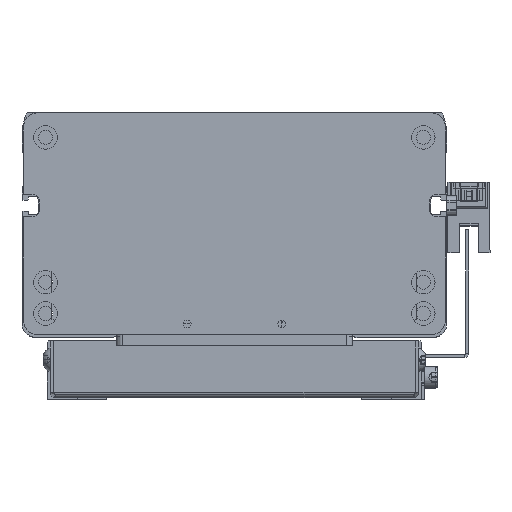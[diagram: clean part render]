
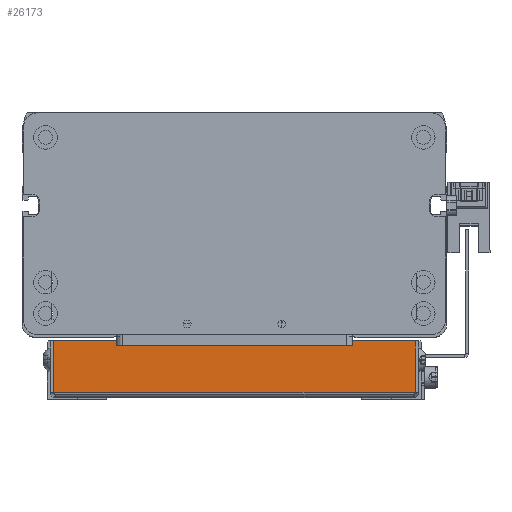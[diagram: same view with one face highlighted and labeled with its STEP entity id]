
A CAD part, front view. The second image highlights one B-rep face of the part: STEP entity #26173.
In plain terms, the highlighted planar face has unit normal (0, -1, 0) as drawn and (0, 0, -1) by its records, which use the part's own axes.
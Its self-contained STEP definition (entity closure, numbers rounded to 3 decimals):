
#411 = DIRECTION ( 'NONE',  ( 0., -1., 0. ) ) ;
#2259 = EDGE_CURVE ( 'NONE', #14990, #5510, #4133, .T. ) ;
#2807 = ORIENTED_EDGE ( 'NONE', *, *, #6139, .F. ) ;
#3041 = VERTEX_POINT ( 'NONE', #14095 ) ;
#4133 = LINE ( 'NONE', #14811, #17696 ) ;
#5510 = VERTEX_POINT ( 'NONE', #17784 ) ;
#6139 = EDGE_CURVE ( 'NONE', #3041, #14990, #7745, .T. ) ;
#7745 = LINE ( 'NONE', #13411, #26751 ) ;
#7921 = ORIENTED_EDGE ( 'NONE', *, *, #2259, .F. ) ;
#11475 = DIRECTION ( 'NONE',  ( 0., 0., 1. ) ) ;
#11747 = CARTESIAN_POINT ( 'NONE',  ( -53.796, 56.624, 628.624 ) ) ;
#12245 = DIRECTION ( 'NONE',  ( 1., 0., 0. ) ) ;
#13179 = EDGE_LOOP ( 'NONE', ( #2807, #22040, #28611, #7921 ) ) ;
#13411 = CARTESIAN_POINT ( 'NONE',  ( 139.113, 56.624, 628.624 ) ) ;
#13671 = VECTOR ( 'NONE', #15596, 1000. ) ;
#14095 = CARTESIAN_POINT ( 'NONE',  ( 61.004, 56.624, 628.624 ) ) ;
#14155 = VECTOR ( 'NONE', #12245, 1000. ) ;
#14811 = CARTESIAN_POINT ( 'NONE',  ( -53.796, 56.624, 628.624 ) ) ;
#14990 = VERTEX_POINT ( 'NONE', #11747 ) ;
#15175 = CARTESIAN_POINT ( 'NONE',  ( 61.004, 40.36, 628.624 ) ) ;
#15566 = DIRECTION ( 'NONE',  ( -1., 0., 0. ) ) ;
#15596 = DIRECTION ( 'NONE',  ( 0., -1., 0. ) ) ;
#16027 = AXIS2_PLACEMENT_3D ( 'NONE', #23702, #11475, #21640 ) ;
#16643 = EDGE_CURVE ( 'NONE', #3041, #27941, #22134, .T. ) ;
#17134 = CARTESIAN_POINT ( 'NONE',  ( -53.896, 40.36, 628.624 ) ) ;
#17696 = VECTOR ( 'NONE', #411, 1000. ) ;
#17784 = CARTESIAN_POINT ( 'NONE',  ( -53.796, 40.36, 628.624 ) ) ;
#19251 = EDGE_CURVE ( 'NONE', #5510, #27941, #26518, .T. ) ;
#19302 = FACE_OUTER_BOUND ( 'NONE', #13179, .T. ) ;
#21640 = DIRECTION ( 'NONE',  ( 0., -1., 0. ) ) ;
#22040 = ORIENTED_EDGE ( 'NONE', *, *, #16643, .T. ) ;
#22134 = LINE ( 'NONE', #27814, #13671 ) ;
#23702 = CARTESIAN_POINT ( 'NONE',  ( 139.113, 58.36, 628.624 ) ) ;
#26173 = ADVANCED_FACE ( 'NONE', ( #19302 ), #31570, .F. ) ;
#26518 = LINE ( 'NONE', #17134, #14155 ) ;
#26751 = VECTOR ( 'NONE', #15566, 1000. ) ;
#27814 = CARTESIAN_POINT ( 'NONE',  ( 61.004, 56.624, 628.624 ) ) ;
#27941 = VERTEX_POINT ( 'NONE', #15175 ) ;
#28611 = ORIENTED_EDGE ( 'NONE', *, *, #19251, .F. ) ;
#31570 = PLANE ( 'NONE',  #16027 ) ;
